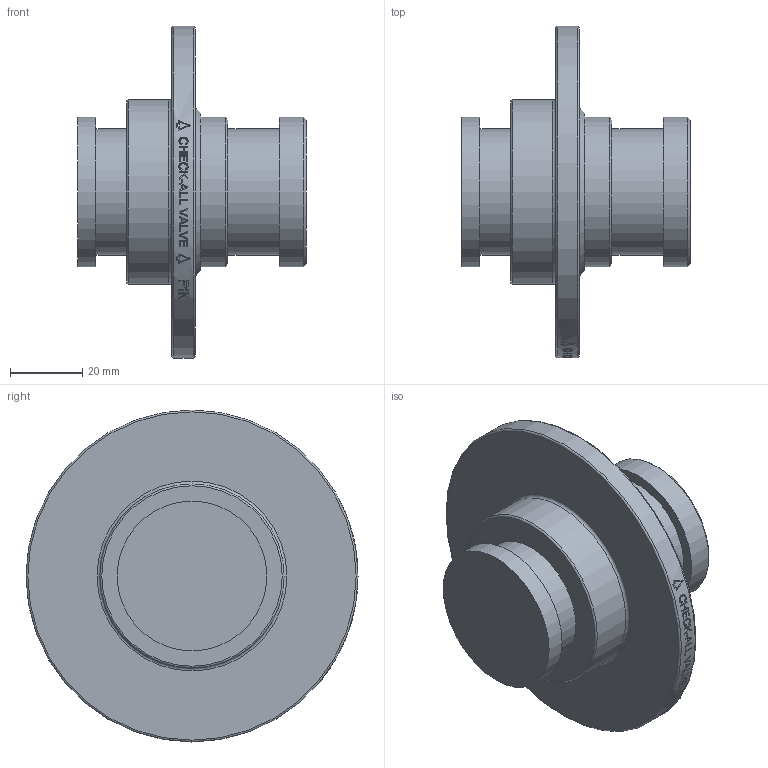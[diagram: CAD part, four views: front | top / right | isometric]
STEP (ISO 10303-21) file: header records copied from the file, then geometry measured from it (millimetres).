
FILE_DESCRIPTION( ( 'Unknown' ), '1' );
FILE_NAME( 'Y:/ENGR/3D Solid Edge Models/F1/F1 STEP/F1K.stp', 'Unknown', ( 'Unknown' ), ( 'Unknown' ), 'PSStep 14.0', 'Unknown', ' ' );
FILE_SCHEMA( ( 'AUTOMOTIVE_DESIGN { 1 0 10303 214 1 1 1 1 }' ) );
Length unit declared in the file: inch
Products named in the file (1): 1
Bounding box: 63.42 x 92.08 x 92.08 mm (x, y, z)
Volume: 120371 mm3; surface area: 23655.4 mm2
Topology: 1 solids, 1 shells, 217 faces, 549 edges, 364 vertices
Faces by surface type: plane 132, bspline 48, cylinder 30, torus 4, cone 3
Full cylindrical faces by diameter (mm): 35.179 x2, 41.402 x2, 41.529 x1, 51.054 x1, 92.075 x1
Entity records: 9296 total; most frequent: CARTESIAN_POINT 3504, ORIENTED_EDGE 1070, EDGE_CURVE 535, B_SPLINE_CURVE_WITH_KNOTS 513, DIRECTION 384, VERTEX_POINT 364, EDGE_LOOP 261, FACE_OUTER_BOUND 228
